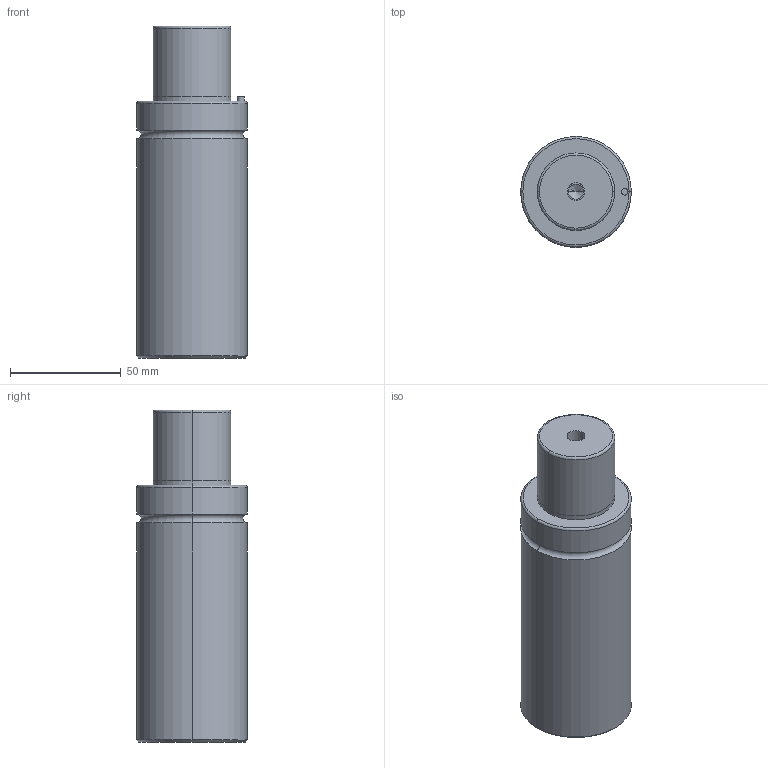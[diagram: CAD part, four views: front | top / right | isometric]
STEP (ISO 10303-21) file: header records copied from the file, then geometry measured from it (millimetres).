
FILE_DESCRIPTION(/* description */ (''),/* implementation_level */ '2;1');
FILE_NAME(/* name */ '3d_gsm50-32_03914_r00.stp',/* time_stamp */ '2011-01-10T14:15:15+09:00',/* author */ ('MISUMI'),/* organization */ (''),/* preprocessor_version */ 'ST-DEVELOPER v11',/* originating_system */ 'UGS - NX 5.0',/* authorisation */ '');
FILE_SCHEMA (('CONFIG_CONTROL_DESIGN'));
Length unit declared in the file: millimetre
Products named in the file (1): 3d_gsm50-32_03914_r00
Bounding box: 50 x 50 x 150 mm (x, y, z)
Volume: 256531.6 mm3; surface area: 27448.2 mm2
Topology: 1 solids, 1 shells, 50 faces, 106 edges, 60 vertices
Faces by surface type: cylinder 26, cone 10, plane 8, torus 6
Entity records: 1382 total; most frequent: DIRECTION 262, CARTESIAN_POINT 209, ORIENTED_EDGE 196, AXIS2_PLACEMENT_3D 113, EDGE_CURVE 98, CIRCLE 62, EDGE_LOOP 60, VERTEX_POINT 60
